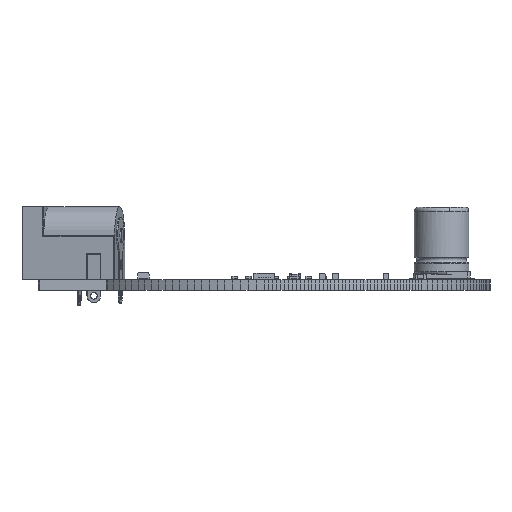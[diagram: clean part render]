
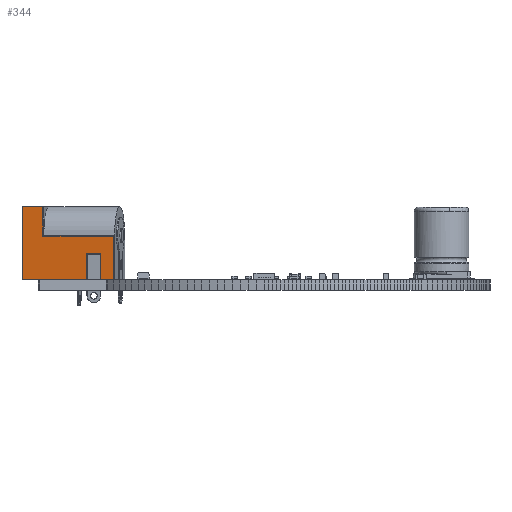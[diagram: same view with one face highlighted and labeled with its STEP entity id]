
A CAD part, front view. The second image highlights one B-rep face of the part: STEP entity #344.
In plain terms, the highlighted planar face has unit normal (-0.174, -0.985, 0) as drawn and (0, -1, 0) by its records, which use the part's own axes.
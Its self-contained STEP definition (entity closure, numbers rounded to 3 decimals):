
#175 = VERTEX_POINT('',#176);
#176 = CARTESIAN_POINT('',(-13.6,-4.5,10.6));
#183 = EDGE_CURVE('',#184,#175,#186,.T.);
#184 = VERTEX_POINT('',#185);
#185 = CARTESIAN_POINT('',(-10.6,-4.5,10.6));
#186 = LINE('',#187,#188);
#187 = CARTESIAN_POINT('',(-10.5,-4.5,10.6));
#188 = VECTOR('',#189,1.);
#189 = DIRECTION('',(-1.,0.,0.));
#344 = ADVANCED_FACE('',(#345),#386,.T.);
#345 = FACE_BOUND('',#346,.T.);
#346 = EDGE_LOOP('',(#347,#357,#365,#373,#379,#380));
#347 = ORIENTED_EDGE('',*,*,#348,.F.);
#348 = EDGE_CURVE('',#349,#351,#353,.T.);
#349 = VERTEX_POINT('',#350);
#350 = CARTESIAN_POINT('',(-0.1,-4.5,-0.1));
#351 = VERTEX_POINT('',#352);
#352 = CARTESIAN_POINT('',(-13.6,-4.5,-0.1));
#353 = LINE('',#354,#355);
#354 = CARTESIAN_POINT('',(-10.5,-4.5,-0.1));
#355 = VECTOR('',#356,1.);
#356 = DIRECTION('',(-1.,0.,0.));
#357 = ORIENTED_EDGE('',*,*,#358,.F.);
#358 = EDGE_CURVE('',#359,#349,#361,.T.);
#359 = VERTEX_POINT('',#360);
#360 = CARTESIAN_POINT('',(-0.1,-4.5,6.3));
#361 = LINE('',#362,#363);
#362 = CARTESIAN_POINT('',(-0.1,-4.5,6.4));
#363 = VECTOR('',#364,1.);
#364 = DIRECTION('',(0.,0.,-1.));
#365 = ORIENTED_EDGE('',*,*,#366,.T.);
#366 = EDGE_CURVE('',#359,#367,#369,.T.);
#367 = VERTEX_POINT('',#368);
#368 = CARTESIAN_POINT('',(-10.6,-4.5,6.3));
#369 = LINE('',#370,#371);
#370 = CARTESIAN_POINT('',(0.,-4.5,6.3));
#371 = VECTOR('',#372,1.);
#372 = DIRECTION('',(-1.,0.,0.));
#373 = ORIENTED_EDGE('',*,*,#374,.F.);
#374 = EDGE_CURVE('',#184,#367,#375,.T.);
#375 = LINE('',#376,#377);
#376 = CARTESIAN_POINT('',(-10.6,-4.5,10.7));
#377 = VECTOR('',#378,1.);
#378 = DIRECTION('',(0.,0.,-1.));
#379 = ORIENTED_EDGE('',*,*,#183,.T.);
#380 = ORIENTED_EDGE('',*,*,#381,.T.);
#381 = EDGE_CURVE('',#175,#351,#382,.T.);
#382 = LINE('',#383,#384);
#383 = CARTESIAN_POINT('',(-13.6,-4.5,10.7));
#384 = VECTOR('',#385,1.);
#385 = DIRECTION('',(0.,0.,-1.));
#386 = PLANE('',#387);
#387 = AXIS2_PLACEMENT_3D('',#388,#389,#390);
#388 = CARTESIAN_POINT('',(-7.771,-4.5,4.379));
#389 = DIRECTION('',(0.,-1.,0.));
#390 = DIRECTION('',(1.,0.,0.));
